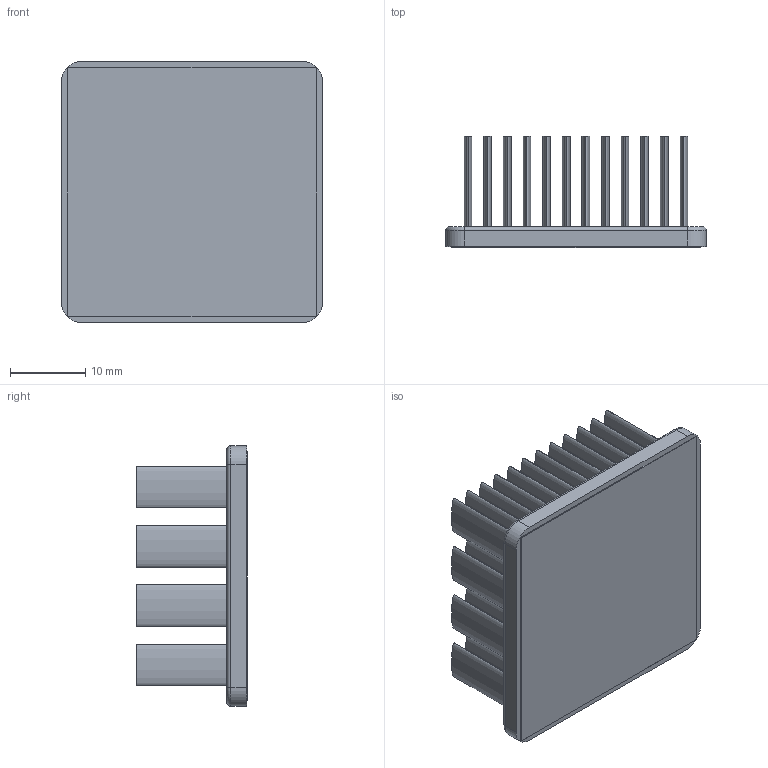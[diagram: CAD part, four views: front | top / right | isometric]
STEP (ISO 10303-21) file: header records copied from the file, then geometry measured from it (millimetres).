
FILE_DESCRIPTION (( 'STEP AP214' ), '1' );
FILE_NAME ('INM35001-15W-2.6.STEP', '2023-02-20T22:53:07', ( '' ), ( '' ), 'SwSTEP 2.0', 'SolidWorks 2020', '' );
FILE_SCHEMA (( 'AUTOMOTIVE_DESIGN' ));
Length unit declared in the file: inch
Products named in the file (1): INM35001-15W-2.6
Bounding box: 34.6 x 14.73 x 34.6 mm (x, y, z)
Volume: 5865.2 mm3; surface area: 11494.4 mm2
Topology: 2 solids, 2 shells, 168 faces, 340 edges, 224 vertices
Faces by surface type: bspline 96, plane 60, cylinder 8, torus 4
Entity records: 6823 total; most frequent: CARTESIAN_POINT 1981, ORIENTED_EDGE 680, EDGE_CURVE 340, DIRECTION 314, VERTEX_POINT 224, EDGE_LOOP 216, UNCERTAINTY_MEASURE_WITH_UNIT 172, DIMENSIONAL_EXPONENTS 172
